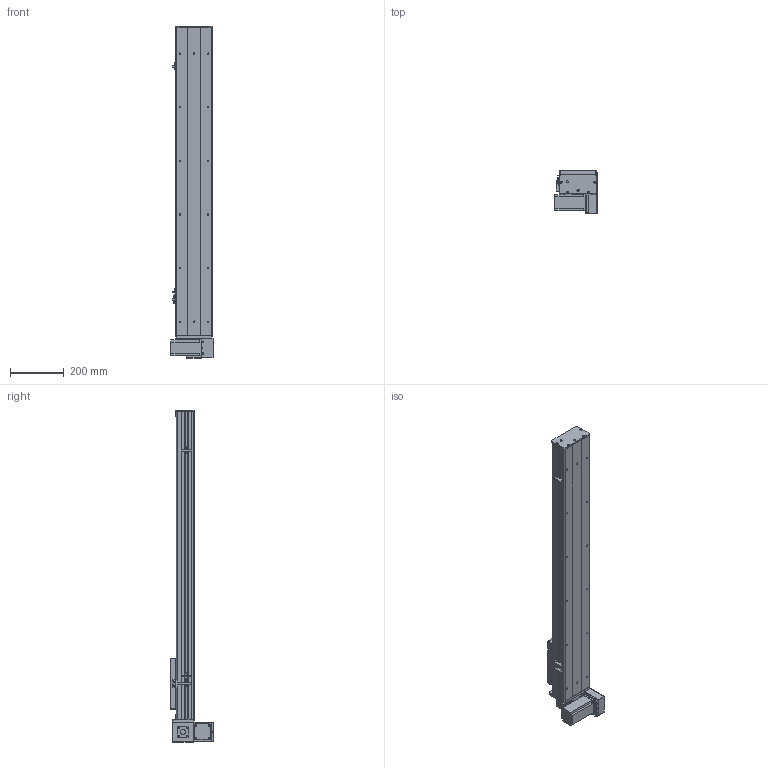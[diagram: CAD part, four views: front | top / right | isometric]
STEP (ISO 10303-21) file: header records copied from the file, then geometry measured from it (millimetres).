
FILE_DESCRIPTION (( 'STEP AP203' ), '1' );
FILE_NAME ('Y135CB-D90-S850-BM-P400W.STEP', '2020-02-19T01:05:46', ( '微软用户' ), ( '微软中国' ), 'SwSTEP 2.0', 'SolidWorks 2017', '' );
FILE_SCHEMA (( 'CONFIG_CONTROL_DESIGN' ));
Length unit declared in the file: millimetre
Products named in the file (18): 00B-俋欶BM--; 5CB --掛极耜裔啣-; Y10B-耜蚾蟀諉啣----; C-詩湍揤踡え-陔; Y135CB-耜裔; Y135CB-D90-S850-BM-P400W; 135CB--詩湍-CE; 135CB---遴掛极.-; Y100-135俋离換覜ん--; 35CB---喘謫眊楊擘啣; Y135C-陔俋离換覜結え-; 0B-埴倛裔啣; 5C--俋欶; 0B-源倛裔啣; C-雄赽釱--; 0B-萇儂楊擘啣; Y10B--々湍喘謫眊--666; san松下电机400不带刹车----
Assembly tree (21 placements, depth 2):
  Y135CB-D90-S850-BM-P400W
    Y135CB-耜裔
    135CB---遴掛极.-
    35CB---喘謫眊楊擘啣
    0B-埴倛裔啣
    0B-源倛裔啣
    0B-萇儂楊擘啣
    san松下电机400不带刹车----
    5CB --掛极耜裔啣-  x2
    C-詩湍揤踡え-陔  x2
    135CB--詩湍-CE
    Y100-135俋离換覜ん--  x3
    Y135C-陔俋离換覜結え-
    5C--俋欶
    C-雄赽釱--
    Y10B--々湍喘謫眊--666
    00B-俋欶BM--
    Y10B-耜蚾蟀諉啣----
Bounding box: 157 x 163.3 x 1238 mm (x, y, z)
Volume: 3996972.9 mm3; surface area: 1559815.7 mm2
Topology: 21 solids, 21 shells, 941 faces, 2509 edges, 1662 vertices
Faces by surface type: cylinder 469, plane 456, cone 16
Entity records: 29147 total; most frequent: DIRECTION 4841, CARTESIAN_POINT 4768, ORIENTED_EDGE 4494, EDGE_CURVE 2247, AXIS2_PLACEMENT_3D 1763, VERTEX_POINT 1490, VECTOR 1315, LINE 1315
